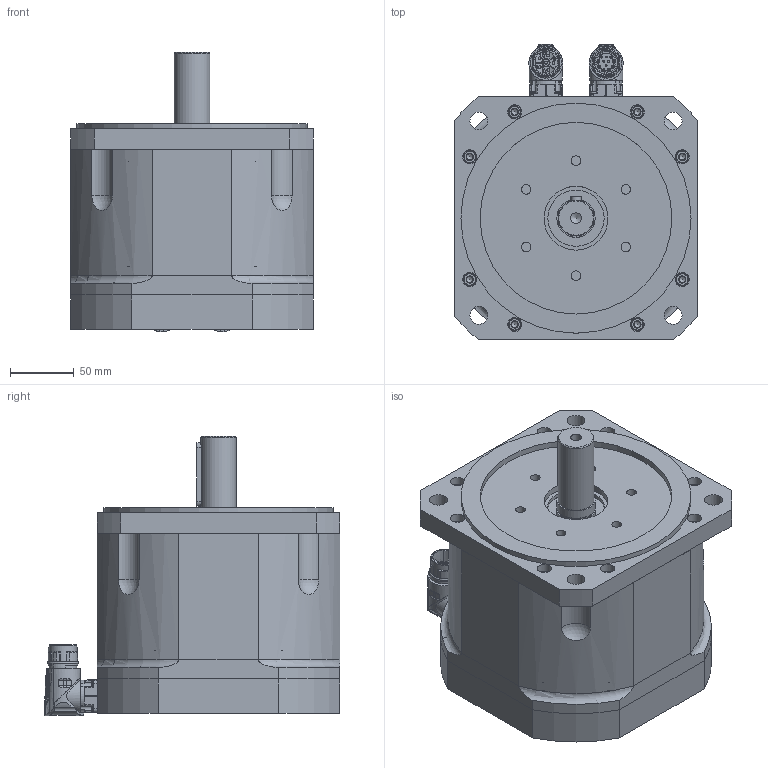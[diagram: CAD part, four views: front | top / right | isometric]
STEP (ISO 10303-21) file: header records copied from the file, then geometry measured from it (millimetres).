
FILE_DESCRIPTION(/* description */ (''),/* implementation_level */ '2;1');
FILE_NAME(/* name */ 'C:\Users\Public\Documents\Autodesk\Inventor LT 2014\Workspace\Motori Sito WEB\TG_COMPATTI\STEP_COMPATTI\DSM5_60_x197.stp',/* time_stamp */ '2021-03-31T14:49:24+02:00',/* author */ ('marcor'),/* organization */ (''),/* preprocessor_version */ 'ST-DEVELOPER v15.2',/* originating_system */ 'Autodesk Inventor LT ',/* authorisation */ '');
FILE_SCHEMA (('AUTOMOTIVE_DESIGN { 1 0 10303 214 3 1 1 }'));
Products named in the file (1): DSM5_60_x197
Bounding box: 190 x 231.5 x 218.91 mm (x, y, z)
Volume: 4998367.6 mm3; surface area: 422032.7 mm2
Topology: 24 solids, 34 shells, 1736 faces, 4517 edges, 3001 vertices
Faces by surface type: plane 651, cylinder 478, cone 379, bspline 113, torus 83, sphere 32
Full cylindrical faces by diameter (mm): 1.2 x12, 2.224 x8, 2.233 x6, 2.5 x8, 2.88 x8, 3.26 x8, 4.5 x2, 4.8 x8, 4.917 x20, 5.5 x3, 5.9 x2, 6 x20, 6.5 x20, 7.5 x6, 8.376 x1, 10 x20, 11 x20, 14 x4, 15.2 x1, 17.4 x3, 18 x1, 19.8 x1, 21.15 x4, 21.6 x1, 21.653 x2, 24.3 x2, 28 x1, 28.6 x1, 29.9 x1, 30 x1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
Entity records: 59890 total; most frequent: CARTESIAN_POINT 19322, ORIENTED_EDGE 7986, DIRECTION 7595, EDGE_CURVE 3993, AXIS2_PLACEMENT_3D 3066, VERTEX_POINT 2867, EDGE_LOOP 2364, ADVANCED_FACE 1736
